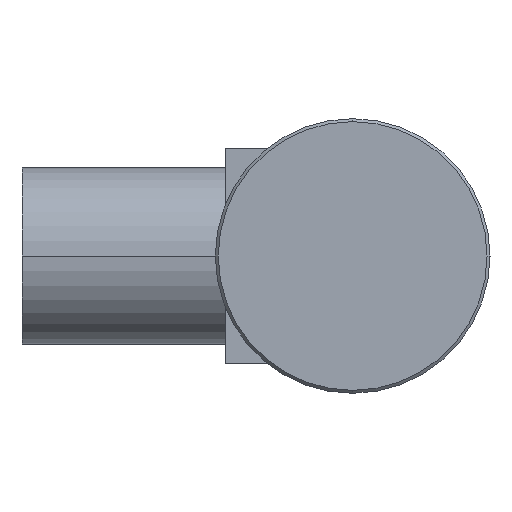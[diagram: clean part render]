
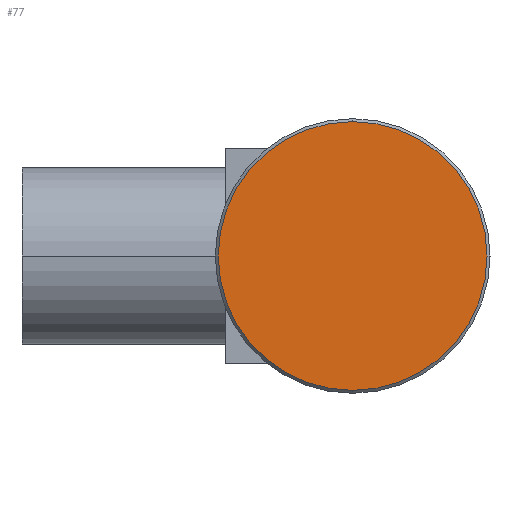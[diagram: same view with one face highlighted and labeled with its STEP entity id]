
A CAD part, left-side view. The second image highlights one B-rep face of the part: STEP entity #77.
In plain terms, the highlighted planar face has unit normal (-1, 0, 0).
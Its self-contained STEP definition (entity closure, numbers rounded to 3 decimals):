
#77 = ADVANCED_FACE ( 'NONE', ( #1129 ), #1145, .T. ) ;
#244 = CARTESIAN_POINT ( 'NONE',  ( -106.2, 0., 13.7 ) ) ;
#374 = AXIS2_PLACEMENT_3D ( 'NONE', #1097, #613, #908 ) ;
#387 = ORIENTED_EDGE ( 'NONE', *, *, #861, .T. ) ;
#407 = AXIS2_PLACEMENT_3D ( 'NONE', #1085, #416, #432 ) ;
#416 = DIRECTION ( 'NONE',  ( -1., 0., 0. ) ) ;
#432 = DIRECTION ( 'NONE',  ( 0., 0., 1. ) ) ;
#483 = VERTEX_POINT ( 'NONE', #244 ) ;
#508 = ORIENTED_EDGE ( 'NONE', *, *, #1041, .T. ) ;
#553 = CARTESIAN_POINT ( 'NONE',  ( -106.2, 0., -13.7 ) ) ;
#582 = EDGE_LOOP ( 'NONE', ( #508, #387 ) ) ;
#613 = DIRECTION ( 'NONE',  ( -1., 0., 0. ) ) ;
#842 = CIRCLE ( 'NONE', #928, 13.7 ) ;
#861 = EDGE_CURVE ( 'NONE', #483, #1062, #871, .T. ) ;
#871 = CIRCLE ( 'NONE', #374, 13.7 ) ;
#908 = DIRECTION ( 'NONE',  ( 0., 0., 1. ) ) ;
#928 = AXIS2_PLACEMENT_3D ( 'NONE', #947, #1199, #1040 ) ;
#947 = CARTESIAN_POINT ( 'NONE',  ( -106.2, 0., 0. ) ) ;
#1040 = DIRECTION ( 'NONE',  ( 0., 0., 1. ) ) ;
#1041 = EDGE_CURVE ( 'NONE', #1062, #483, #842, .T. ) ;
#1062 = VERTEX_POINT ( 'NONE', #553 ) ;
#1085 = CARTESIAN_POINT ( 'NONE',  ( -106.2, 14., 0. ) ) ;
#1097 = CARTESIAN_POINT ( 'NONE',  ( -106.2, 0., 0. ) ) ;
#1129 = FACE_OUTER_BOUND ( 'NONE', #582, .T. ) ;
#1145 = PLANE ( 'NONE',  #407 ) ;
#1199 = DIRECTION ( 'NONE',  ( -1., 0., 0. ) ) ;
